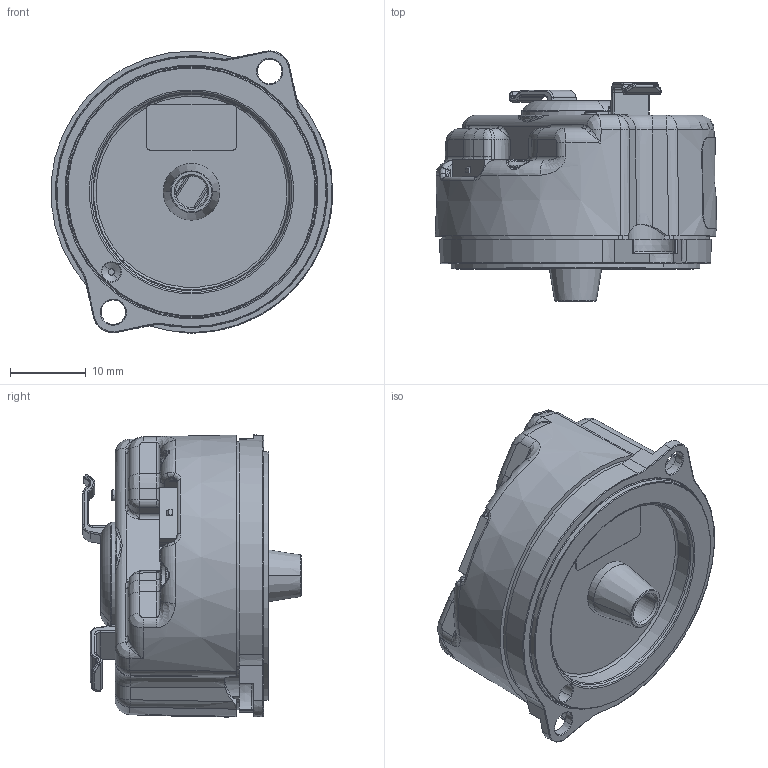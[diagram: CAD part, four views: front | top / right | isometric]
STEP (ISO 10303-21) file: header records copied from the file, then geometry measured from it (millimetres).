
FILE_DESCRIPTION((''),'2;1');
FILE_NAME('D-582-039_3280624HW1','2024-09-18T',('andreas.woehrstein'),(''),'CREO PARAMETRIC BY PTC INC, 2018360','CREO PARAMETRIC BY PTC INC, 2018360','');
FILE_SCHEMA(('AUTOMOTIVE_DESIGN { 1 0 10303 214 1 1 1 1 }'));
Products named in the file (1): D-582-039_3280624HW1
Bounding box: 37.26 x 28.95 x 37.35 mm (x, y, z)
Volume: 17185.4 mm3; surface area: 9246.7 mm2
Topology: 1 solids, 2 shells, 2909 faces, 7891 edges, 4927 vertices
Faces by surface type: plane 1514, cylinder 698, bspline 256, torus 232, cone 121, sphere 88
Entity records: 130802 total; most frequent: CARTESIAN_POINT 38282, ORIENTED_EDGE 15782, DIRECTION 14233, EDGE_CURVE 7891, VERTEX_POINT 4927, AXIS2_PLACEMENT_3D 4769, VECTOR 4695, LINE 4695
